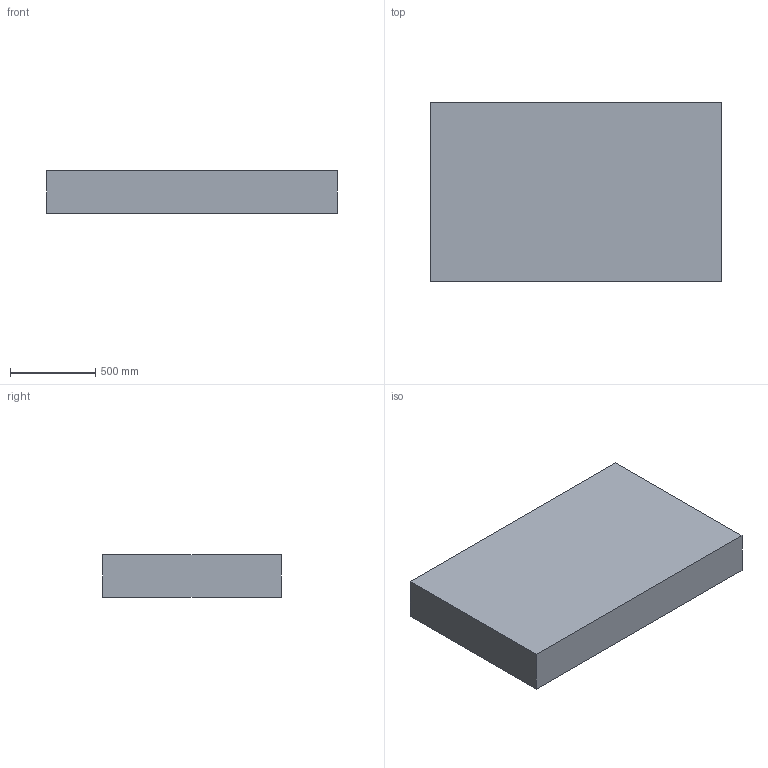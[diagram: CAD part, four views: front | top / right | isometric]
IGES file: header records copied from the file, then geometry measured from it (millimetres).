
Start section:  PTC IGES file: fr_fwd_dr_flux_plate.igs
Global section: file name: fr_fwd_dr_flux_plate.igs; native system: Pro/ENGINEER by Parametric Technology Corporation; preprocessor: 1999260; author: oshatz; organization: Unknown; date: 000922.101806; units: millimetre
Bounding box: 1708.4 x 1049 x 250 mm (x, y, z)
Surface area: 4962923.2 mm2 (no closed solid volume)
Topology: 0 solids, 0 shells, 6 faces, 24 edges, 24 vertices
Faces by surface type: bspline 6
